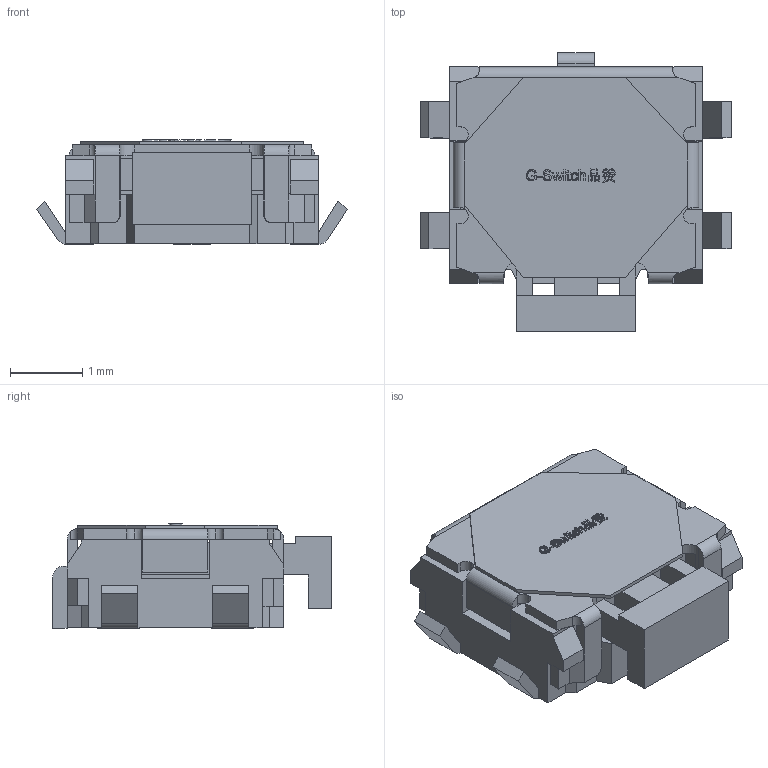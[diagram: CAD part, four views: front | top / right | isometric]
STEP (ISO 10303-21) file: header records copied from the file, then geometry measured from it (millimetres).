
FILE_DESCRIPTION (( 'STEP AP203' ), '1' );
FILE_NAME ('GT-TA045X-H036-L1N.STEP', '2023-09-06T07:32:44', ( '' ), ( '' ), 'SwSTEP 2.0', 'SolidWorks 2023', '' );
FILE_SCHEMA (( 'CONFIG_CONTROL_DESIGN' ));
Length unit declared in the file: millimetre
Products named in the file (1): GT-TA045X-H036-L1N
Bounding box: 4.3 x 3.86 x 1.45 mm (x, y, z)
Volume: 12.1 mm3; surface area: 107.7 mm2
Topology: 2 solids, 2 shells, 621 faces, 1776 edges, 1166 vertices
Faces by surface type: plane 498, bspline 74, cylinder 47, torus 2
Entity records: 23667 total; most frequent: CARTESIAN_POINT 7842, ORIENTED_EDGE 3552, DIRECTION 2792, EDGE_CURVE 1776, LINE 1504, VECTOR 1504, VERTEX_POINT 1166, EDGE_LOOP 654
